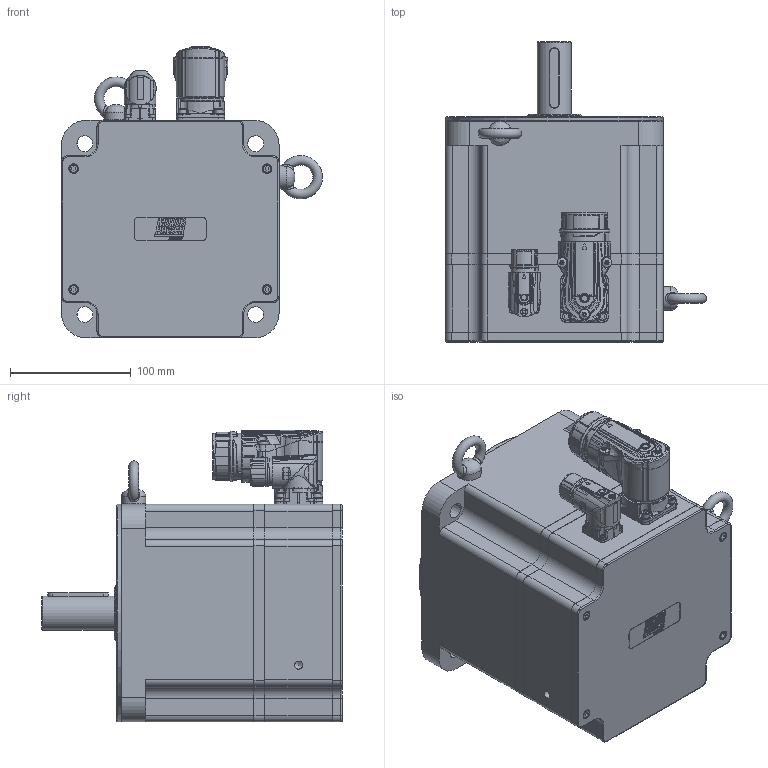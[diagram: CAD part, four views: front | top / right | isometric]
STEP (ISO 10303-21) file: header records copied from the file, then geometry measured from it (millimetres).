
FILE_DESCRIPTION(/* description */ ('Unknown'),/* implementation_level */ '2;1');
FILE_NAME(/* name */ 'TC4-180.7A.X X.X.3.XX.0.X.G3.00.00 Q0B809',/* time_stamp */ '2026-03-10T15:00:46+01:00',/* author */ ('Unknown'),/* organization */ ('Unknown'),/* preprocessor_version */ 'ST-DEVELOPER v19.4',/* originating_system */ 'Solid Edge',/* authorisation */ 'Unknown');
FILE_SCHEMA (('AUTOMOTIVE_DESIGN {1 0 10303 214 3 1 1}'));
Products named in the file (16): Q0B809 7A VUOTO; Calotta TC4-180 V8; 003251040631; 005911000479; 005911000205; 003155002231; 003003199965; 005113000610; 005119001064; Corpo TC4-180 7A V7; 005911000185; 007117000452; 007117000454; Coperchio campana TC4-180; 005911000180; 005321000010
Assembly tree (32 placements, depth 2):
  Q0B809 7A VUOTO
    Calotta TC4-180 V8
    003251040631
    005911000479  x8
    005911000205  x4
    003155002231
    003003199965
    005113000610
    005119001064
    Corpo TC4-180 7A V7
    005911000185  x4
    007117000452
    007117000454
    Coperchio campana TC4-180
    005911000180  x4
    005321000010  x2
Bounding box: 215.93 x 248.51 x 241.45 mm (x, y, z)
Volume: 2673229.6 mm3; surface area: 615039.8 mm2
Topology: 34 solids, 35 shells, 3272 faces, 8112 edges, 5031 vertices
Faces by surface type: plane 1167, cylinder 697, bspline 616, cone 345, torus 313, sphere 134
Full cylindrical faces by diameter (mm): 0.5 x1, 1 x17, 1.2 x17, 2 x4, 2.013 x8, 2.5 x4, 3 x5, 3.242 x12, 3.6 x5, 4 x12, 4.134 x24, 4.2 x8, 4.5 x9, 4.7 x4, 5 x8, 5.4 x1, 5.5 x9, 5.9 x1, 6.647 x14, 7 x10, 8 x9, 8.376 x2, 9 x4, 10 x3, 15 x1, 15.2 x1, 17.4 x2, 18 x1, 20 x3, 21.15 x2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
Entity records: 144650 total; most frequent: CARTESIAN_POINT 59749, ORIENTED_EDGE 13710, DIRECTION 11849, EDGE_CURVE 6855, AXIS2_PLACEMENT_3D 4665, VERTEX_POINT 4530, FACE_BOUND 3787, EDGE_LOOP 3761
